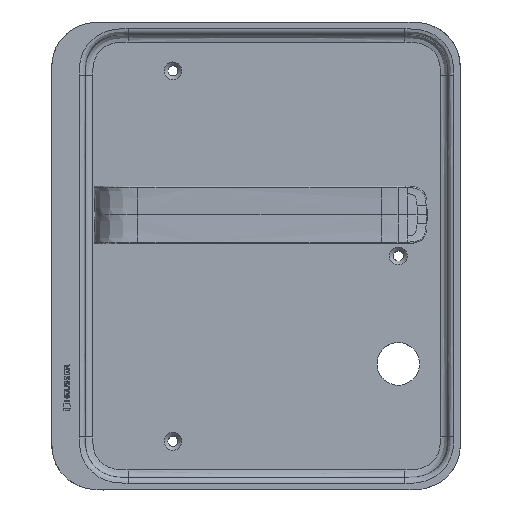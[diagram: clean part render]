
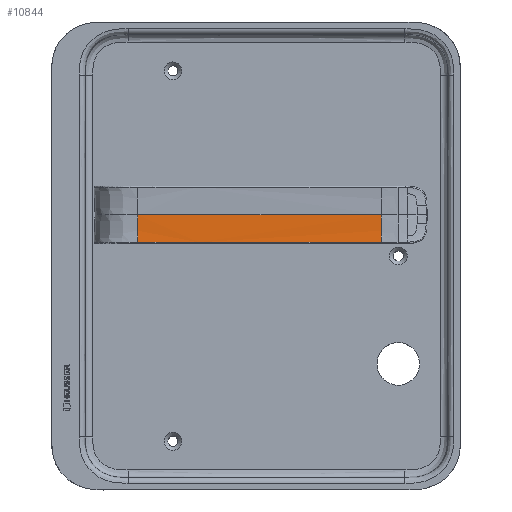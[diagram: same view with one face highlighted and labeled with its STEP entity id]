
A CAD part, top view. The second image highlights one B-rep face of the part: STEP entity #10844.
In plain terms, the highlighted free-form (B-spline) face has degree [1, 5] with [2, 6] control points.
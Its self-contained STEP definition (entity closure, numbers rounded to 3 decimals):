
#135=B_SPLINE_SURFACE_WITH_KNOTS('',1,5,((#16303,#16304,#16305,#16306,#16307,
#16308),(#16309,#16310,#16311,#16312,#16313,#16314)),.UNSPECIFIED.,.F.,
 .F.,.F.,(2,2),(6,6),(0.,1.),(0.,1.),.UNSPECIFIED.);
#437=B_SPLINE_CURVE_WITH_KNOTS('',5,(#16236,#16237,#16238,#16239,#16240,
#16241),.UNSPECIFIED.,.F.,.F.,(6,6),(0.,0.466),
 .UNSPECIFIED.);
#442=B_SPLINE_CURVE_WITH_KNOTS('',3,(#16317,#16318,#16319,#16320,#16321,
#16322,#16323,#16324,#16325,#16326),.UNSPECIFIED.,.F.,.F.,(4,3,3,4),(3.187,
8.761,12.402,12.747),.UNSPECIFIED.);
#443=B_SPLINE_CURVE_WITH_KNOTS('',5,(#16327,#16328,#16329,#16330,#16331,
#16332),.UNSPECIFIED.,.F.,.F.,(6,6),(0.,0.466),
 .UNSPECIFIED.);
#444=B_SPLINE_CURVE_WITH_KNOTS('',3,(#16333,#16334,#16335,#16336,#16337,
#16338,#16339,#16340,#16341,#16342,#16343,#16344,#16345,#16346,#16347,#16348,
#16349,#16350,#16351),.UNSPECIFIED.,.F.,.F.,(4,3,3,3,3,3,4),(0.,0.398,
0.557,0.796,0.913,1.195,3.187),
 .UNSPECIFIED.);
#1236=LINE('',#16302,#2119);
#2119=VECTOR('',#12351,10.);
#2902=FACE_OUTER_BOUND('',#3517,.T.);
#3517=EDGE_LOOP('',(#7584,#7585,#7586,#7587,#7588));
#4457=VERTEX_POINT('',#16023);
#4461=VERTEX_POINT('',#16168);
#4463=VERTEX_POINT('',#16262);
#4465=VERTEX_POINT('',#16315);
#4466=VERTEX_POINT('',#16316);
#5628=EDGE_CURVE('',#4461,#4457,#437,.T.);
#5633=EDGE_CURVE('',#4463,#4457,#1236,.T.);
#5634=EDGE_CURVE('',#4465,#4466,#442,.T.);
#5635=EDGE_CURVE('',#4466,#4463,#443,.T.);
#5636=EDGE_CURVE('',#4461,#4465,#444,.T.);
#7584=ORIENTED_EDGE('',*,*,#5634,.T.);
#7585=ORIENTED_EDGE('',*,*,#5635,.T.);
#7586=ORIENTED_EDGE('',*,*,#5633,.T.);
#7587=ORIENTED_EDGE('',*,*,#5628,.F.);
#7588=ORIENTED_EDGE('',*,*,#5636,.T.);
#10844=ADVANCED_FACE('',(#2902),#135,.F.);
#12351=DIRECTION('',(-1.,0.,-0.004));
#16023=CARTESIAN_POINT('',(-67.55,22.622,37.911));
#16168=CARTESIAN_POINT('',(-67.55,8.232,38.446));
#16236=CARTESIAN_POINT('Ctrl Pts',(-67.55,8.233,38.446));
#16237=CARTESIAN_POINT('Ctrl Pts',(-67.55,10.022,38.167));
#16238=CARTESIAN_POINT('Ctrl Pts',(-67.55,12.523,38.023));
#16239=CARTESIAN_POINT('Ctrl Pts',(-67.55,15.673,37.948));
#16240=CARTESIAN_POINT('Ctrl Pts',(-67.55,19.148,37.911));
#16241=CARTESIAN_POINT('Ctrl Pts',(-67.55,22.622,37.911));
#16262=CARTESIAN_POINT('',(59.923,22.622,38.458));
#16302=CARTESIAN_POINT('',(59.923,22.622,38.458));
#16303=CARTESIAN_POINT('Ctrl Pts',(-67.55,37.622,38.554));
#16304=CARTESIAN_POINT('Ctrl Pts',(-67.55,34.229,37.868));
#16305=CARTESIAN_POINT('Ctrl Pts',(-67.55,27.522,37.868));
#16306=CARTESIAN_POINT('Ctrl Pts',(-67.55,17.722,37.868));
#16307=CARTESIAN_POINT('Ctrl Pts',(-67.55,11.014,37.868));
#16308=CARTESIAN_POINT('Ctrl Pts',(-67.55,7.622,38.554));
#16309=CARTESIAN_POINT('Ctrl Pts',(59.948,37.622,39.101));
#16310=CARTESIAN_POINT('Ctrl Pts',(59.948,34.229,38.415));
#16311=CARTESIAN_POINT('Ctrl Pts',(59.948,27.522,38.415));
#16312=CARTESIAN_POINT('Ctrl Pts',(59.948,17.722,38.415));
#16313=CARTESIAN_POINT('Ctrl Pts',(59.948,11.014,38.415));
#16314=CARTESIAN_POINT('Ctrl Pts',(59.948,7.622,39.101));
#16315=CARTESIAN_POINT('',(-35.682,8.233,38.582));
#16316=CARTESIAN_POINT('',(59.923,8.233,38.992));
#16317=CARTESIAN_POINT('Ctrl Pts',(-35.682,8.233,38.582));
#16318=CARTESIAN_POINT('Ctrl Pts',(-17.103,8.233,38.662));
#16319=CARTESIAN_POINT('Ctrl Pts',(1.491,8.233,38.742));
#16320=CARTESIAN_POINT('Ctrl Pts',(20.066,8.233,38.822));
#16321=CARTESIAN_POINT('Ctrl Pts',(32.2,8.233,38.874));
#16322=CARTESIAN_POINT('Ctrl Pts',(44.334,8.232,38.924));
#16323=CARTESIAN_POINT('Ctrl Pts',(56.468,8.233,38.978));
#16324=CARTESIAN_POINT('Ctrl Pts',(57.62,8.233,38.983));
#16325=CARTESIAN_POINT('Ctrl Pts',(58.772,8.233,38.988));
#16326=CARTESIAN_POINT('Ctrl Pts',(59.923,8.233,38.992));
#16327=CARTESIAN_POINT('Ctrl Pts',(59.923,8.233,38.992));
#16328=CARTESIAN_POINT('Ctrl Pts',(59.923,10.022,38.714));
#16329=CARTESIAN_POINT('Ctrl Pts',(59.923,12.523,38.57));
#16330=CARTESIAN_POINT('Ctrl Pts',(59.923,15.673,38.495));
#16331=CARTESIAN_POINT('Ctrl Pts',(59.923,19.147,38.458));
#16332=CARTESIAN_POINT('Ctrl Pts',(59.923,22.622,38.458));
#16333=CARTESIAN_POINT('Ctrl Pts',(-67.55,8.232,38.446));
#16334=CARTESIAN_POINT('Ctrl Pts',(-66.222,8.232,38.451));
#16335=CARTESIAN_POINT('Ctrl Pts',(-64.894,8.233,38.457));
#16336=CARTESIAN_POINT('Ctrl Pts',(-63.566,8.233,38.463));
#16337=CARTESIAN_POINT('Ctrl Pts',(-63.017,8.233,38.465));
#16338=CARTESIAN_POINT('Ctrl Pts',(-62.467,8.233,38.468));
#16339=CARTESIAN_POINT('Ctrl Pts',(-61.918,8.233,38.47));
#16340=CARTESIAN_POINT('Ctrl Pts',(-61.141,8.233,38.473));
#16341=CARTESIAN_POINT('Ctrl Pts',(-60.364,8.233,38.477));
#16342=CARTESIAN_POINT('Ctrl Pts',(-59.586,8.233,38.48));
#16343=CARTESIAN_POINT('Ctrl Pts',(-59.175,8.233,38.482));
#16344=CARTESIAN_POINT('Ctrl Pts',(-58.764,8.233,38.483));
#16345=CARTESIAN_POINT('Ctrl Pts',(-58.353,8.233,38.485));
#16346=CARTESIAN_POINT('Ctrl Pts',(-57.436,8.233,38.489));
#16347=CARTESIAN_POINT('Ctrl Pts',(-56.519,8.233,38.493));
#16348=CARTESIAN_POINT('Ctrl Pts',(-55.602,8.233,38.497));
#16349=CARTESIAN_POINT('Ctrl Pts',(-48.962,8.232,38.526));
#16350=CARTESIAN_POINT('Ctrl Pts',(-42.322,8.233,38.554));
#16351=CARTESIAN_POINT('Ctrl Pts',(-35.682,8.233,38.582));
